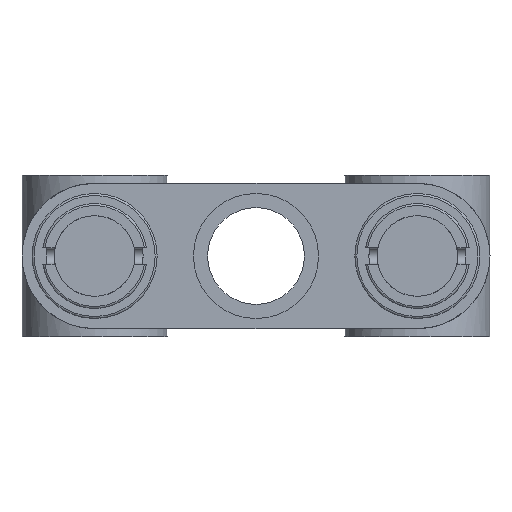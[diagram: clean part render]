
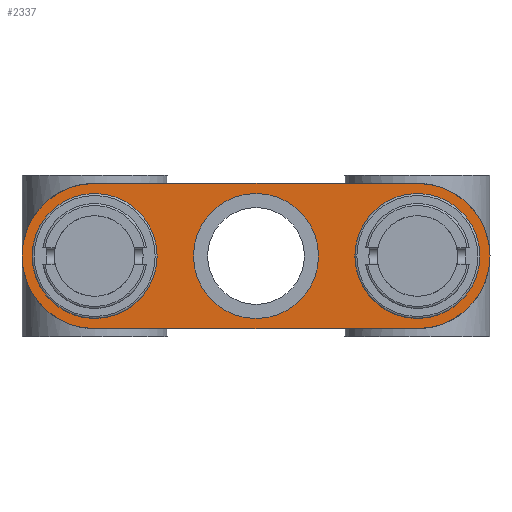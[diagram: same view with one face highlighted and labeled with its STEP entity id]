
A CAD part, front view. The second image highlights one B-rep face of the part: STEP entity #2337.
In plain terms, the highlighted planar face has unit normal (0, -1, 0).
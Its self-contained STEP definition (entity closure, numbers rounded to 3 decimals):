
#91=PLANE('',#2606);
#285=LINE('',#4134,#429);
#287=LINE('',#4146,#431);
#429=VECTOR('',#3215,1000.);
#431=VECTOR('',#3227,1000.);
#845=ORIENTED_EDGE('',*,*,#1396,.T.);
#846=ORIENTED_EDGE('',*,*,#1368,.F.);
#847=ORIENTED_EDGE('',*,*,#1397,.F.);
#848=ORIENTED_EDGE('',*,*,#1393,.F.);
#849=ORIENTED_EDGE('',*,*,#1398,.F.);
#850=ORIENTED_EDGE('',*,*,#1399,.F.);
#851=ORIENTED_EDGE('',*,*,#1369,.T.);
#1368=EDGE_CURVE('',#1634,#1634,#1770,.F.);
#1369=EDGE_CURVE('',#1635,#1635,#1771,.F.);
#1393=EDGE_CURVE('',#1651,#1652,#285,.T.);
#1396=EDGE_CURVE('',#1654,#1654,#1785,.T.);
#1397=EDGE_CURVE('',#1652,#1655,#1786,.T.);
#1398=EDGE_CURVE('',#1656,#1651,#1787,.T.);
#1399=EDGE_CURVE('',#1655,#1656,#287,.T.);
#1634=VERTEX_POINT('',#4081);
#1635=VERTEX_POINT('',#4084);
#1651=VERTEX_POINT('',#4133);
#1652=VERTEX_POINT('',#4135);
#1654=VERTEX_POINT('',#4141);
#1655=VERTEX_POINT('',#4143);
#1656=VERTEX_POINT('',#4145);
#1770=CIRCLE('',#2578,3.1);
#1771=CIRCLE('',#2580,3.1);
#1785=CIRCLE('',#2607,3.1);
#1786=CIRCLE('',#2608,3.6);
#1787=CIRCLE('',#2609,3.6);
#1928=EDGE_LOOP('',(#845));
#1929=EDGE_LOOP('',(#846));
#1930=EDGE_LOOP('',(#847,#848,#849,#850));
#1931=EDGE_LOOP('',(#851));
#2120=FACE_BOUND('',#1928,.T.);
#2121=FACE_BOUND('',#1929,.T.);
#2122=FACE_BOUND('',#1930,.T.);
#2123=FACE_BOUND('',#1931,.T.);
#2337=ADVANCED_FACE('',(#2120,#2121,#2122,#2123),#91,.F.);
#2578=AXIS2_PLACEMENT_3D('',#4080,#3152,#3153);
#2580=AXIS2_PLACEMENT_3D('',#4083,#3156,#3157);
#2606=AXIS2_PLACEMENT_3D('',#4139,#3219,#3220);
#2607=AXIS2_PLACEMENT_3D('',#4140,#3221,#3222);
#2608=AXIS2_PLACEMENT_3D('',#4142,#3223,#3224);
#2609=AXIS2_PLACEMENT_3D('',#4144,#3225,#3226);
#3152=DIRECTION('',(0.,1.,0.));
#3153=DIRECTION('',(0.,0.,1.));
#3156=DIRECTION('',(0.,-1.,0.));
#3157=DIRECTION('',(0.,0.,1.));
#3215=DIRECTION('',(1.,0.,0.));
#3219=DIRECTION('',(0.,1.,0.));
#3220=DIRECTION('',(0.,0.,1.));
#3221=DIRECTION('',(0.,1.,0.));
#3222=DIRECTION('',(-1.,0.,0.));
#3223=DIRECTION('',(0.,1.,0.));
#3224=DIRECTION('',(-1.,0.,0.));
#3225=DIRECTION('',(0.,1.,0.));
#3226=DIRECTION('',(1.,0.,0.));
#3227=DIRECTION('',(-1.,0.,0.));
#4080=CARTESIAN_POINT('',(8.,-4.,0.));
#4081=CARTESIAN_POINT('',(8.,-4.,3.1));
#4083=CARTESIAN_POINT('',(-8.,-4.,0.));
#4084=CARTESIAN_POINT('',(-8.,-4.,3.1));
#4133=CARTESIAN_POINT('',(-8.,-4.,3.6));
#4134=CARTESIAN_POINT('',(0.,-4.,3.6));
#4135=CARTESIAN_POINT('',(8.,-4.,3.6));
#4139=CARTESIAN_POINT('',(8.,-4.,0.));
#4140=CARTESIAN_POINT('',(0.,-4.,0.));
#4141=CARTESIAN_POINT('',(-3.1,-4.,0.));
#4142=CARTESIAN_POINT('',(8.,-4.,0.));
#4143=CARTESIAN_POINT('',(8.,-4.,-3.6));
#4144=CARTESIAN_POINT('',(-8.,-4.,0.));
#4145=CARTESIAN_POINT('',(-8.,-4.,-3.6));
#4146=CARTESIAN_POINT('',(8.,-4.,-3.6));
